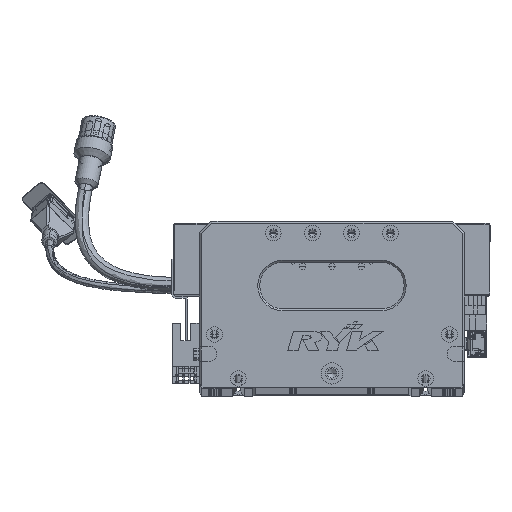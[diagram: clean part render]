
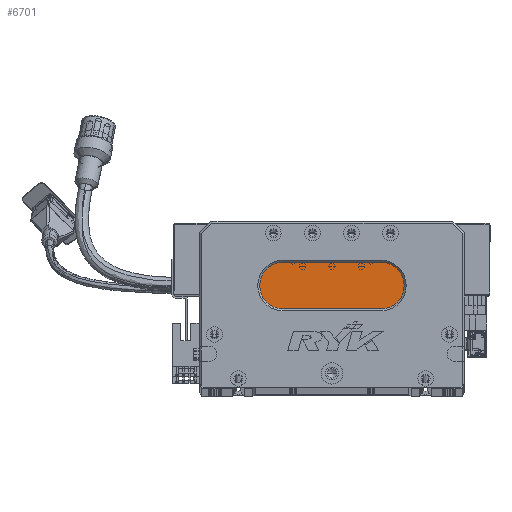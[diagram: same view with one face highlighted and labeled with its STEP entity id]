
A CAD part, top view. The second image highlights one B-rep face of the part: STEP entity #6701.
In plain terms, the highlighted planar face has unit normal (0, 0, 1) as drawn and (0, 0, -1) by its records, which use the part's own axes.
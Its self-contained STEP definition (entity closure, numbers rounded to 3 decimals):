
#2849 = EDGE_CURVE ( 'NONE', #5428, #78995, #68094, .T. ) ;
#5428 = VERTEX_POINT ( 'NONE', #118698 ) ;
#6044 = DIRECTION ( 'NONE',  ( -1., 0., 0. ) ) ;
#6701 = ADVANCED_FACE ( 'NONE', ( #37161 ), #25799, .T. ) ;
#6797 = ORIENTED_EDGE ( 'NONE', *, *, #16036, .T. ) ;
#6934 = ORIENTED_EDGE ( 'NONE', *, *, #8110, .T. ) ;
#8110 = EDGE_CURVE ( 'NONE', #78995, #52330, #52610, .T. ) ;
#10699 = ORIENTED_EDGE ( 'NONE', *, *, #2849, .T. ) ;
#16036 = EDGE_CURVE ( 'NONE', #52330, #63015, #87218, .T. ) ;
#16616 = DIRECTION ( 'NONE',  ( 0., 0., -1. ) ) ;
#17577 = DIRECTION ( 'NONE',  ( -1., 0., 0. ) ) ;
#23329 = EDGE_LOOP ( 'NONE', ( #82122, #118980, #10699, #6934, #6797 ) ) ;
#23947 = LINE ( 'NONE', #45910, #52646 ) ;
#25139 = CARTESIAN_POINT ( 'NONE',  ( 93., 52., 13. ) ) ;
#25799 = PLANE ( 'NONE',  #66565 ) ;
#26210 = DIRECTION ( 'NONE',  ( 0., 0., -1. ) ) ;
#26690 = VECTOR ( 'NONE', #48277, 1000. ) ;
#30018 = AXIS2_PLACEMENT_3D ( 'NONE', #75912, #64926, #17577 ) ;
#36724 = CARTESIAN_POINT ( 'NONE',  ( 93., 52., 13. ) ) ;
#37161 = FACE_OUTER_BOUND ( 'NONE', #23329, .T. ) ;
#43624 = AXIS2_PLACEMENT_3D ( 'NONE', #25139, #54676, #83059 ) ;
#45910 = CARTESIAN_POINT ( 'NONE',  ( 93., 40., 13. ) ) ;
#48035 = AXIS2_PLACEMENT_3D ( 'NONE', #103657, #16616, #6044 ) ;
#48277 = DIRECTION ( 'NONE',  ( 1., 0., 0. ) ) ;
#52330 = VERTEX_POINT ( 'NONE', #82877 ) ;
#52610 = CIRCLE ( 'NONE', #48035, 12. ) ;
#52646 = VECTOR ( 'NONE', #55640, 1000. ) ;
#54676 = DIRECTION ( 'NONE',  ( 0., 0., -1. ) ) ;
#55184 = CARTESIAN_POINT ( 'NONE',  ( 93., 64., 13. ) ) ;
#55640 = DIRECTION ( 'NONE',  ( -1., 0., 0. ) ) ;
#63015 = VERTEX_POINT ( 'NONE', #55184 ) ;
#64260 = DIRECTION ( 'NONE',  ( -1., 0., 0. ) ) ;
#64926 = DIRECTION ( 'NONE',  ( 0., 0., -1. ) ) ;
#66565 = AXIS2_PLACEMENT_3D ( 'NONE', #36724, #26210, #64260 ) ;
#68094 = CIRCLE ( 'NONE', #30018, 12. ) ;
#75912 = CARTESIAN_POINT ( 'NONE',  ( 43., 52., 13. ) ) ;
#77298 = EDGE_CURVE ( 'NONE', #63015, #102388, #114638, .T. ) ;
#78995 = VERTEX_POINT ( 'NONE', #113778 ) ;
#82122 = ORIENTED_EDGE ( 'NONE', *, *, #77298, .T. ) ;
#82877 = CARTESIAN_POINT ( 'NONE',  ( 43., 64., 13. ) ) ;
#83059 = DIRECTION ( 'NONE',  ( -1., 0., 0. ) ) ;
#83721 = CARTESIAN_POINT ( 'NONE',  ( 93., 40., 13. ) ) ;
#87218 = LINE ( 'NONE', #106213, #26690 ) ;
#95624 = EDGE_CURVE ( 'NONE', #102388, #5428, #23947, .T. ) ;
#102388 = VERTEX_POINT ( 'NONE', #83721 ) ;
#103657 = CARTESIAN_POINT ( 'NONE',  ( 43., 52., 13. ) ) ;
#106213 = CARTESIAN_POINT ( 'NONE',  ( 93., 64., 13. ) ) ;
#113778 = CARTESIAN_POINT ( 'NONE',  ( 31., 52., 13. ) ) ;
#114638 = CIRCLE ( 'NONE', #43624, 12. ) ;
#118698 = CARTESIAN_POINT ( 'NONE',  ( 43., 40., 13. ) ) ;
#118980 = ORIENTED_EDGE ( 'NONE', *, *, #95624, .T. ) ;
